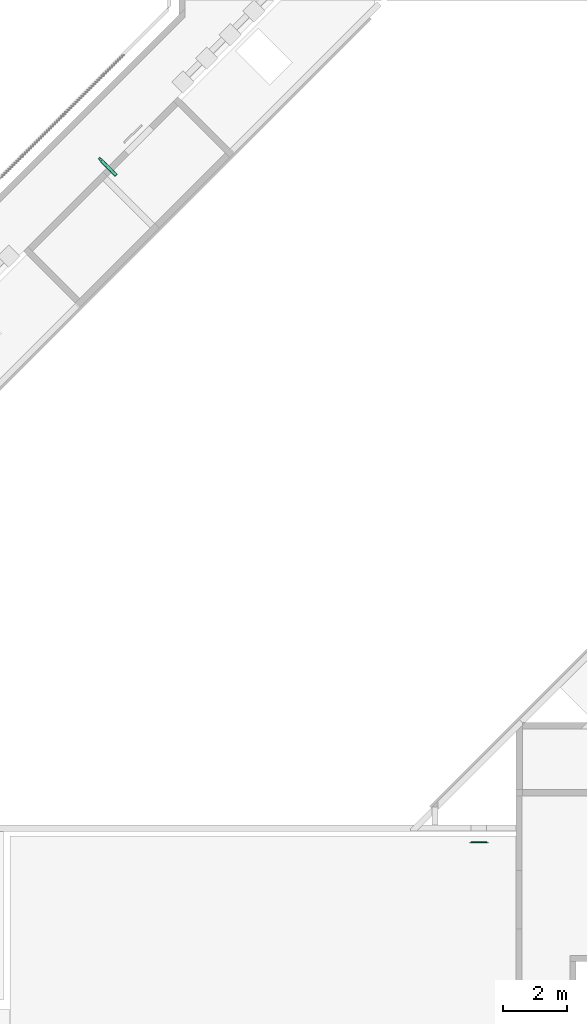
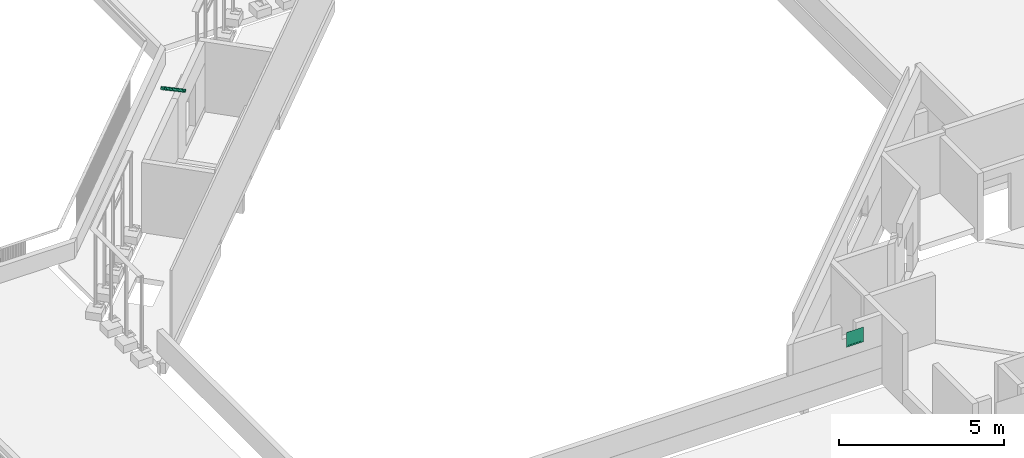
# One storey, part 37 of 37: 1 air terminal, 1 pipe fitting.
"""IFC4X3_ADD2 building model written with IfcOpenShell, lengths in millimetres."""

from ifc_helpers import new_model, si_unit, direction, frame, origin_with_axes, place, context, subcontext, project, spatial, polygons, source, transform, mapped, element, save


model = new_model("IFC4X3_ADD2")

# Units and contexts
model_context = context("Model", 3, precision=1e-05, world=origin_with_axes(), true_north=direction((0.0, 1.0)))
body_context = subcontext(model_context, "Body", "Model", "MODEL_VIEW")
ifc_project = project(units=[si_unit("LENGTHUNIT", "METRE", prefix="MILLI"), si_unit("AREAUNIT", "SQUARE_METRE"), si_unit("VOLUMEUNIT", "CUBIC_METRE"), si_unit("PLANEANGLEUNIT", "RADIAN"), si_unit("TIMEUNIT", "SECOND"), si_unit("MASSUNIT", "GRAM")], contexts=[model_context])

# Site, building, storey
site_placement = place(None, origin_with_axes())
site = spatial("IfcSite", under=ifc_project, at=site_placement, Name="Site", CompositionType="ELEMENT")
building_placement = place(site_placement, origin_with_axes())
building = spatial("IfcBuilding", under=site, at=building_placement, Name="IFC Building Story")
storey_placement = place(building_placement, frame((0.0, 0.0, 14400.0), z_axis=(0.0, 0.0, 1.0), x_axis=(1.0, 0.0, 0.0)))
storey = spatial("IfcBuildingStorey", under=building, at=storey_placement, Name="040", Elevation=14400.0)

# Air terminal
shared_shape_1 = source(origin_with_axes(), body_context, "Body", "Tessellation", [
    polygons([(540.0, 50.0, 50.0), (50.0, 50.0000000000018, 50.0), (50.0, 50.0000000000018, 500.000000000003), (540.0, 50.0, 500.000000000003), (540.0, 10.0, 50.0), (540.0, 10.0, 500.000000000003), (50.0, 10.0000000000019, 500.000000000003), (50.0, 10.0000000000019, 50.0)], [[[1, 2, 3, 4]], [[5, 6, 7, 8]], [[1, 4, 6, 5]], [[4, 3, 7, 6]], [[3, 2, 8, 7]], [[2, 1, 5, 8]]]),
    polygons([(540.0, 50.0, 50.0), (540.0, 0.0, 50.0), (540.0, 0.0, 500.000000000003), (540.0, 50.0, 500.000000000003), (545.0, 5.0, 45.0), (545.0, 50.0, 45.0), (545.0, 50.0, 505.000000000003), (545.0, 5.0, 505.000000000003), (590.0, 0.0, 0.0), (590.0, 5.0, 0.0), (590.0, 5.0, 550.000000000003), (590.0, 0.0, 550.000000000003), (50.0, 1.75965908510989e-12, 500.000000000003), (50.0, 50.0000000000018, 500.000000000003), (45.0, 50.0000000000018, 505.000000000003), (45.0, 5.00000000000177, 505.000000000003), (0.0, 5.00000000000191, 550.000000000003), (0.0, 1.89501747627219e-12, 550.000000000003), (50.0, 1.75965908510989e-12, 50.0), (50.0, 50.0000000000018, 50.0), (45.0, 50.0000000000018, 45.0), (45.0, 5.00000000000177, 45.0), (0.0, 5.00000000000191, 0.0), (0.0, 1.89501747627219e-12, 0.0)], [[[1, 2, 3, 4]], [[5, 6, 7, 8]], [[9, 10, 11, 12]], [[4, 3, 13, 14]], [[8, 7, 15, 16]], [[12, 11, 17, 18]], [[14, 13, 19, 20]], [[16, 15, 21, 22]], [[18, 17, 23, 24]], [[20, 19, 2, 1]], [[1, 4, 7]], [[1, 7, 6]], [[6, 21, 20]], [[6, 20, 1]], [[21, 15, 14]], [[21, 14, 20]], [[15, 7, 4]], [[15, 4, 14]], [[22, 21, 6, 5]], [[5, 8, 11]], [[5, 11, 10]], [[10, 23, 22]], [[10, 22, 5]], [[23, 17, 16]], [[23, 16, 22]], [[17, 11, 8]], [[17, 8, 16]], [[24, 23, 10, 9]], [[3, 2, 9]], [[3, 9, 12]], [[12, 18, 13]], [[12, 13, 3]], [[18, 24, 19]], [[18, 19, 13]], [[24, 9, 2]], [[24, 2, 19]]]),
])
air_terminal_placement = place(storey_placement, frame((-21564.9514329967, 12140.0, 1900.0), z_axis=(0.0, 0.0, 1.0), x_axis=(1.0, 0.0, 0.0)))
element("IfcAirTerminal", 1, at=air_terminal_placement, inside=storey, Name="BB_07.14.11#01_Buitenrooster_GMO:490 x 450 mm", ObjectType="BB_07.14.11#01_Buitenrooster_GMO:490 x 450 mm", PredefinedType="GRILLE", context=body_context, shape_type="MappedRepresentation", body=[
    mapped(shared_shape_1, transform((0.0, 0.0, 0.0))),
])

# Pipe fitting
shared_shape_2 = source(origin_with_axes(), body_context, "Body", "Tessellation", [
    polygons([(84.8528137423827, 475.383516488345, 97.7851761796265), (87.1173418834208, 473.118988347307, 20.9245423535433), (138.029030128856, 524.030676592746, 20.9245423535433), (135.764501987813, 526.295204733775, 97.7851761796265), (134.35028842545, 524.880991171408, 97.7851761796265), (136.555997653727, 522.675281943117, 22.9209224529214), (88.4727365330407, 474.592020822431, 22.9209224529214), (86.2670273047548, 476.797730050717, 97.7851761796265), (0.0, 560.236330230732, 92.7851761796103), (2.26452814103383, 557.971802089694, 15.9245423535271), (53.176216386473, 608.883490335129, 15.9245423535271), (50.9116882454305, 611.148018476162, 92.7851761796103), (1.41421356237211, 561.650543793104, 92.7851761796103), (3.61992279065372, 559.444834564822, 17.9209224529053), (51.70318391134, 607.528095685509, 17.9209224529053), (49.4974746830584, 609.73380491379, 92.7851761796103)], [[[7, 8, 1]], [[7, 1, 2]], [[2, 3, 6]], [[2, 6, 7]], [[3, 4, 5]], [[3, 5, 6]], [[2, 1, 9, 10]], [[4, 3, 11, 12]], [[1, 8, 13, 9]], [[15, 16, 12]], [[15, 12, 11]], [[11, 10, 14]], [[11, 14, 15]], [[10, 9, 13]], [[10, 13, 14]], [[3, 2, 10, 11]], [[6, 5, 16, 15]], [[7, 6, 15, 14]], [[8, 7, 14, 13]], [[5, 4, 12, 16]]]),
    polygons([(86.3259017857, 476.738855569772, 95.7869100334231), (134.409162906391, 524.822116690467, 95.7869100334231), (134.35028842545, 524.880991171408, 97.785176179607), (86.2670273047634, 476.797730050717, 97.785176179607), (29.7102866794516, 533.35447067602, 92.4508029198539), (29.6514121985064, 533.41334515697, 94.4490690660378), (77.7346733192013, 581.496606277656, 94.4490690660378), (77.7935478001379, 581.437731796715, 92.4508029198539)], [[[1, 2, 3, 4]], [[5, 6, 7, 8]], [[2, 1, 5, 8]], [[4, 3, 7, 6]], [[3, 2, 8, 7]], [[1, 4, 6, 5]]]),
    polygons([(363.44218468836, 295.056360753, 116.481392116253), (354.43848759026, 286.475316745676, 123.654109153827), (588.705172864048, 61.3337185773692, 134.004817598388), (371.903482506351, 254.040436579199, 128.309432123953), (119.94274004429, 511.336675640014, 112.434723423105), (292.769665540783, 318.378352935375, 125.087480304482), (579.163691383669, 52.1157243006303, 139.494577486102), (370.919987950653, 301.936438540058, 106.337638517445), (597.017033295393, 69.1309851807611, 125.271870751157), (603.53283312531, 74.9761532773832, 113.890872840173), (582.291452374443, 48.9879633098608, 33.3348491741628), (324.995217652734, 300.948701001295, 17.4601406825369), (357.430095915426, 283.483708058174, 22.1154634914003), (386.09503838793, 225.052980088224, 130.586730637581), (569.042825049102, 42.1051934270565, 141.367032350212), (389.333134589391, 221.814883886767, 20.6820925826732), (296.007757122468, 315.14026135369, 15.1828419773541), (113.059970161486, 498.088048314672, 4.40254024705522), (376.362296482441, 306.646685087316, 93.9141283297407), (607.808531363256, 78.4708843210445, 100.637420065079), (129.484221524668, 520.554669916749, 106.94496353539), (109.821873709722, 501.326144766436, 114.307178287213), (137.796081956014, 528.35193652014, 98.2120166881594), (144.311881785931, 534.197104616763, 86.8310187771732), (148.587580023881, 537.691835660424, 73.5775660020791), (379.398225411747, 308.866105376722, 80.0575032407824), (150.331794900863, 538.597969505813, 59.3548592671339), (379.820882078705, 308.4434487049, 65.7120693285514), (609.552746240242, 79.3770181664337, 86.4147133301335), (377.601462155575, 305.407519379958, 51.8554442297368), (608.646612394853, 77.6328032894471, 72.1920065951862), (605.151881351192, 73.3571050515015, 58.938553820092), (572.280921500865, 38.8670969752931, 31.4623943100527), (123.070501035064, 508.20891464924, 6.27499511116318), (599.30671325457, 66.8413052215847, 47.557555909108), (372.891215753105, 299.965210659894, 39.4319340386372), (591.509446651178, 58.5294447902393, 38.8246090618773), (366.011138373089, 292.487406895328, 29.2881804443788), (132.288495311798, 517.750396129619, 11.7647549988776), (140.085761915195, 526.062256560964, 20.4977018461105), (149.425661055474, 536.853754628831, 45.1321525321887), (145.930930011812, 532.578056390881, 31.8786997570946), (327.664310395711, 253.71792256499, 22.1154634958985), (360.286549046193, 236.065569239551, 20.4115591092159), (562.160055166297, 28.856566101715, 33.3348491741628), (559.032294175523, 31.9843270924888, 139.494577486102), (307.020345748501, 289.331772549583, 125.358013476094), (324.67269934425, 256.709533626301, 123.654109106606), (552.618573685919, 19.6385718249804, 38.8246090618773), (311.182807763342, 238.256802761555, 39.4319340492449), (544.306713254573, 11.8413052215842, 47.557555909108), (537.790913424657, 5.99613712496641, 58.938553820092), (72.5500489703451, 460.816223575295, 59.3548592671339), (302.281913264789, 231.749792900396, 80.0575032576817), (73.4561828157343, 462.560438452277, 73.5775660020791), (318.660611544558, 245.136880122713, 29.2881804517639), (102.939103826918, 488.077517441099, 6.27499511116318), (305.740499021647, 233.546556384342, 51.8554442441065), (533.515215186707, 2.50140608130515, 72.1920065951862), (93.3976223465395, 478.85952316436, 11.7647549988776), (85.0857619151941, 471.062256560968, 20.4977018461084), (78.5699620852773, 465.217088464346, 31.8786997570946), (302.704569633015, 231.327136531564, 65.7120693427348), (74.2942638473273, 461.722357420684, 45.1321525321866), (531.771000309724, 1.5952722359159, 86.4147133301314), (304.501333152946, 234.785722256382, 93.9141283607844), (532.677134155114, 3.33948711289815, 100.637420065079), (536.171865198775, 7.61518535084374, 113.890872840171), (316.091656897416, 247.705834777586, 116.481392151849), (549.814299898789, 22.4428456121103, 134.004817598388), (90.5933485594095, 481.66379695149, 106.944963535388), (99.8113428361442, 491.205278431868, 112.434723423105), (542.017033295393, 14.1309851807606, 125.271870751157), (309.211579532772, 240.228030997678, 106.33763855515), (76.9509138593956, 466.836136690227, 86.8310187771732), (82.7960819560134, 473.351936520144, 98.2120166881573)], [[[1, 2, 3]], [[4, 5, 6]], [[2, 7, 3]], [[4, 7, 2]], [[8, 9, 10]], [[11, 12, 13]], [[4, 6, 14, 15]], [[3, 9, 1]], [[12, 16, 17, 18]], [[19, 10, 20]], [[5, 2, 21]], [[7, 4, 15]], [[5, 22, 6]], [[23, 8, 24]], [[21, 1, 23]], [[21, 2, 1]], [[24, 19, 25]], [[23, 1, 8]], [[8, 19, 24]], [[26, 19, 20]], [[26, 27, 25]], [[8, 1, 9]], [[28, 26, 29]], [[19, 8, 10]], [[30, 31, 32]], [[11, 33, 16]], [[12, 34, 13]], [[35, 36, 32]], [[13, 37, 11]], [[13, 38, 37]], [[39, 13, 34]], [[35, 37, 38]], [[40, 38, 39]], [[18, 34, 12]], [[31, 28, 29]], [[41, 28, 30]], [[29, 26, 20]], [[27, 26, 28]], [[41, 30, 42]], [[42, 30, 36]], [[42, 36, 40]], [[40, 36, 38]], [[38, 13, 39]], [[38, 36, 35]], [[30, 28, 31]], [[36, 30, 32]], [[11, 16, 12]], [[27, 28, 41]], [[5, 4, 2]], [[19, 26, 25]], [[43, 44, 45]], [[46, 47, 48]], [[44, 17, 16, 33]], [[49, 43, 45]], [[50, 51, 52]], [[53, 54, 55]], [[46, 15, 14]], [[49, 51, 56]], [[57, 44, 43]], [[58, 52, 59]], [[33, 45, 44]], [[17, 44, 57]], [[56, 43, 49]], [[57, 18, 17]], [[58, 50, 52]], [[60, 43, 56]], [[50, 56, 51]], [[61, 56, 50]], [[50, 58, 62]], [[61, 50, 62]], [[63, 53, 64]], [[57, 43, 60]], [[54, 63, 65]], [[47, 14, 6, 22]], [[66, 67, 68]], [[48, 69, 70]], [[71, 48, 72]], [[73, 74, 68]], [[48, 70, 46]], [[75, 74, 76]], [[69, 74, 73]], [[73, 70, 69]], [[46, 14, 47]], [[22, 72, 47]], [[67, 54, 65]], [[55, 54, 66]], [[63, 58, 59]], [[53, 63, 54]], [[58, 63, 64]], [[75, 66, 74]], [[74, 66, 68]], [[76, 74, 69]], [[69, 48, 71]], [[65, 63, 59]], [[66, 54, 67]], [[62, 58, 64]], [[55, 66, 75]], [[76, 69, 71]], [[47, 72, 48]], [[60, 56, 61]], [[25, 27, 41]], [[25, 41, 42]], [[25, 42, 40]], [[25, 40, 39]], [[25, 39, 34]], [[25, 34, 18]], [[25, 18, 57]], [[25, 57, 60]], [[25, 60, 61]], [[25, 61, 62]], [[25, 62, 64]], [[25, 64, 53]], [[25, 53, 55]], [[25, 55, 75]], [[25, 75, 76]], [[25, 76, 71]], [[25, 71, 72]], [[25, 72, 22]], [[25, 22, 5]], [[25, 5, 21]], [[25, 21, 23]], [[25, 23, 24]], [[11, 37, 35]], [[11, 35, 32]], [[11, 32, 31]], [[11, 31, 29]], [[11, 29, 20]], [[11, 20, 10]], [[11, 10, 9]], [[11, 9, 3]], [[11, 3, 7]], [[11, 7, 15]], [[11, 15, 46]], [[11, 46, 70]], [[11, 70, 73]], [[11, 73, 68]], [[11, 68, 67]], [[11, 67, 65]], [[11, 65, 59]], [[11, 59, 52]], [[11, 52, 51]], [[11, 51, 49]], [[11, 49, 45]], [[11, 45, 33]]]),
    polygons([(121.793762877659, 565.721787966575, 95.7869100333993), (109.065840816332, 552.993865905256, 95.7869100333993), (109.065840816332, 552.993865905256, 18.0), (58.1541525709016, 502.082177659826, 18.0), (58.1541525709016, 502.082177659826, 95.7869100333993), (45.4262305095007, 489.354255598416, 95.7869100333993), (45.4262305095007, 489.354255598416, -2.16573425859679e-12), (121.793762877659, 565.721787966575, -2.16573425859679e-12), (120.379549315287, 567.136001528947, 95.7869100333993), (120.379549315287, 567.136001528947, -2.16573425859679e-12), (44.0120169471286, 490.768469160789, -2.16573425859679e-12), (44.0120169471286, 490.768469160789, 95.7869100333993), (56.7399390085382, 503.496391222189, 95.7869100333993), (56.7399390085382, 503.496391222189, 18.0), (107.651627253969, 554.40807946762, 18.0), (107.651627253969, 554.40807946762, 95.7869100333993)], [[[4, 5, 6]], [[4, 6, 7]], [[7, 8, 3]], [[7, 3, 4]], [[8, 1, 2]], [[8, 2, 3]], [[15, 16, 9]], [[15, 9, 10]], [[10, 11, 14]], [[10, 14, 15]], [[11, 12, 13]], [[11, 13, 14]], [[10, 9, 1, 8]], [[12, 11, 7, 6]], [[13, 12, 6, 5]], [[14, 13, 5, 4]], [[16, 15, 3, 2]], [[9, 16, 2, 1]], [[11, 10, 8, 7]], [[15, 14, 4, 3]]]),
])
pipe_fitting_placement = place(storey_placement, frame((-33232.2355754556, 33066.5648291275, 2501.880467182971), z_axis=(0.0, 0.0, 1.0), x_axis=(1.0, 0.0, 0.0)))
element("IfcPipeFitting", 2, at=pipe_fitting_placement, inside=storey, Name="Afwerkstuk spuwer 70 x 70 RVS:Type 1", ObjectType="Afwerkstuk spuwer 70 x 70 RVS:Type 1", PredefinedType="EXIT", context=body_context, shape_type="MappedRepresentation", body=[
    mapped(shared_shape_2, transform((0.0, 0.0, 0.0))),
])

save(model, "model.ifc")
